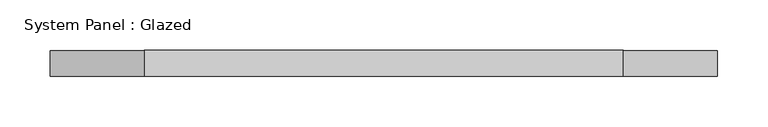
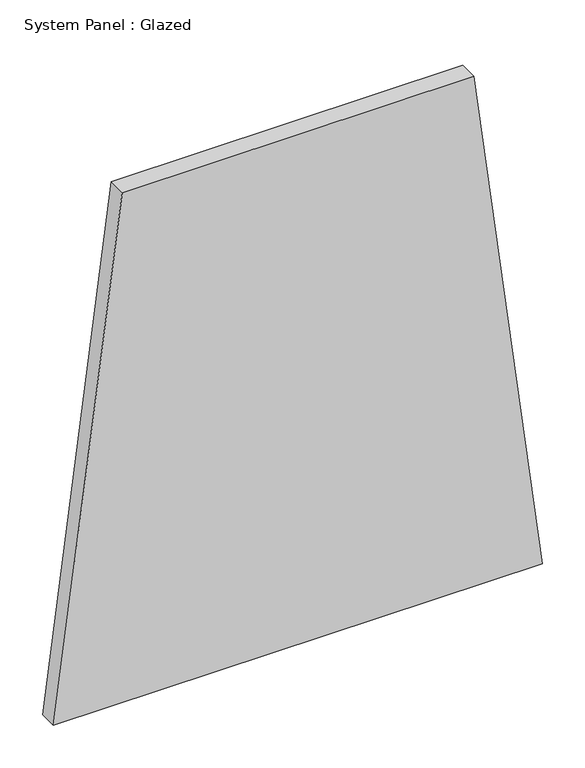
"""IFC4 building model written with IfcOpenShell, lengths in millimetres: plate geometry, System Panel : Glazed."""

from ifc_helpers import new_model, si_unit, frame, origin, place, context, project, spatial, polyline, outline, extrude, source, transform, mapped, element, save


def system_panel_glazed_e6c51f9e(model_context):
    return source(origin(), model_context, "Body", "SweptSolid", [
        extrude(outline(polyline([(0.0, -330.9549539), (0.0, 330.9549539), (730.5145987, 238.0744749), (730.5145987, -238.0744749), (0.0, -330.9549539)])), frame((0.0, -44.45, 0.0), z_axis=(0.0, 1.0, 0.0), x_axis=(0.0, 0.0, 1.0)), (0.0, 0.0, 1.0), 25.4),
    ])


if __name__ == "__main__":
    model = new_model("IFC4")
    model_context = context("Model", 3, world=origin())
    ifc_project = project(units=[si_unit("LENGTHUNIT", "METRE", prefix="MILLI")], contexts=[model_context])
    site = spatial("IfcSite", under=ifc_project)
    building = spatial("IfcBuilding", under=site)
    placement = place(None, origin())
    system_panel_glazed_shape = system_panel_glazed_e6c51f9e(model_context)
    element("IfcPlate", 1, ObjectType="System Panel : Glazed", at=placement, inside=building, context=model_context, shape_type="MappedRepresentation", body=[
        mapped(system_panel_glazed_shape, transform((0.0, 0.0, 0.0), x_axis=(1.0, 0.0, 0.0), y_axis=(0.0, 1.0, 0.0), z_axis=(0.0, 0.0, 1.0))),
    ])
    save(model, "model.ifc")
